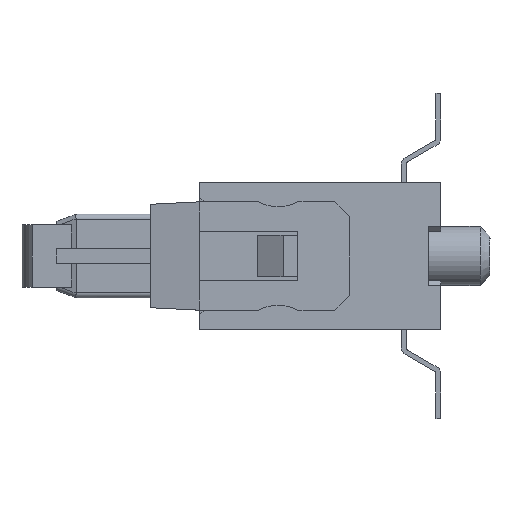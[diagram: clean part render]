
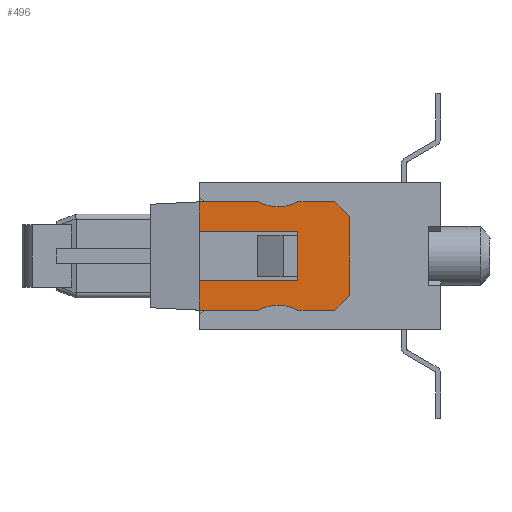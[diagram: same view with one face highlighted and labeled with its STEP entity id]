
A CAD part, left-side view. The second image highlights one B-rep face of the part: STEP entity #496.
In plain terms, the highlighted planar face has unit normal (-1, 0, 0).
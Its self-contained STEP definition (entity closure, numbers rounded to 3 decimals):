
#207 = EDGE_CURVE ( 'NONE', #629, #705, #3390, .T. ) ;
#470 = EDGE_CURVE ( 'NONE', #691, #689, #4088, .T. ) ;
#471 = ORIENTED_EDGE ( 'NONE', *, *, #472, .T. ) ;
#472 = EDGE_CURVE ( 'NONE', #691, #473, #4084, .T. ) ;
#473 = VERTEX_POINT ( 'NONE', #3990 ) ;
#474 = ORIENTED_EDGE ( 'NONE', *, *, #700, .T. ) ;
#475 = VERTEX_POINT ( 'NONE', #3989 ) ;
#484 = EDGE_CURVE ( 'NONE', #569, #571, #4163, .T. ) ;
#486 = ORIENTED_EDGE ( 'NONE', *, *, #487, .F. ) ;
#487 = EDGE_CURVE ( 'NONE', #584, #583, #4220, .T. ) ;
#496 = ADVANCED_FACE ( 'NONE', ( #4297 ), #4224, .T. ) ;
#497 = ORIENTED_EDGE ( 'NONE', *, *, #498, .T. ) ;
#498 = EDGE_CURVE ( 'NONE', #584, #499, #4230, .T. ) ;
#499 = VERTEX_POINT ( 'NONE', #4217 ) ;
#500 = ORIENTED_EDGE ( 'NONE', *, *, #676, .F. ) ;
#565 = VERTEX_POINT ( 'NONE', #4492 ) ;
#567 = EDGE_CURVE ( 'NONE', #714, #565, #4493, .T. ) ;
#569 = VERTEX_POINT ( 'NONE', #4381 ) ;
#571 = VERTEX_POINT ( 'NONE', #4469 ) ;
#581 = ORIENTED_EDGE ( 'NONE', *, *, #582, .F. ) ;
#582 = EDGE_CURVE ( 'NONE', #583, #571, #4399, .T. ) ;
#583 = VERTEX_POINT ( 'NONE', #4387 ) ;
#584 = VERTEX_POINT ( 'NONE', #4386 ) ;
#587 = ORIENTED_EDGE ( 'NONE', *, *, #588, .F. ) ;
#588 = EDGE_CURVE ( 'NONE', #569, #703, #4423, .T. ) ;
#589 = ORIENTED_EDGE ( 'NONE', *, *, #484, .T. ) ;
#629 = VERTEX_POINT ( 'NONE', #4514 ) ;
#631 = EDGE_CURVE ( 'NONE', #565, #629, #4513, .T. ) ;
#676 = EDGE_CURVE ( 'NONE', #877, #499, #4672, .T. ) ;
#686 = EDGE_LOOP ( 'NONE', ( #687, #690, #471, #474, #701, #587, #589, #581, #486, #497, #500, #827, #1095, #880, #881 ) ) ;
#687 = ORIENTED_EDGE ( 'NONE', *, *, #688, .T. ) ;
#688 = EDGE_CURVE ( 'NONE', #705, #689, #4609, .T. ) ;
#689 = VERTEX_POINT ( 'NONE', #4605 ) ;
#690 = ORIENTED_EDGE ( 'NONE', *, *, #470, .F. ) ;
#691 = VERTEX_POINT ( 'NONE', #4604 ) ;
#700 = EDGE_CURVE ( 'NONE', #473, #475, #4809, .T. ) ;
#701 = ORIENTED_EDGE ( 'NONE', *, *, #702, .F. ) ;
#702 = EDGE_CURVE ( 'NONE', #703, #475, #4745, .T. ) ;
#703 = VERTEX_POINT ( 'NONE', #4723 ) ;
#705 = VERTEX_POINT ( 'NONE', #4722 ) ;
#714 = VERTEX_POINT ( 'NONE', #4764 ) ;
#827 = ORIENTED_EDGE ( 'NONE', *, *, #893, .T. ) ;
#877 = VERTEX_POINT ( 'NONE', #5117 ) ;
#880 = ORIENTED_EDGE ( 'NONE', *, *, #631, .T. ) ;
#881 = ORIENTED_EDGE ( 'NONE', *, *, #207, .T. ) ;
#893 = EDGE_CURVE ( 'NONE', #877, #714, #5270, .T. ) ;
#1095 = ORIENTED_EDGE ( 'NONE', *, *, #567, .T. ) ;
#3387 = DIRECTION ( 'NONE',  ( 0., 1., 0. ) ) ;
#3388 = VECTOR ( 'NONE', #3387, 1000. ) ;
#3389 = CARTESIAN_POINT ( 'NONE',  ( -4.85, 1.85, -0.5 ) ) ;
#3390 = LINE ( 'NONE', #3389, #3388 ) ;
#3989 = CARTESIAN_POINT ( 'NONE',  ( -4.85, 2.9, -1.1 ) ) ;
#3990 = CARTESIAN_POINT ( 'NONE',  ( -4.85, 3.3, -1. ) ) ;
#3991 = DIRECTION ( 'NONE',  ( 0., 1., 0. ) ) ;
#3992 = DIRECTION ( 'NONE',  ( 1., 0., 0. ) ) ;
#3993 = CARTESIAN_POINT ( 'NONE',  ( -4.85, 3.3, -1.85 ) ) ;
#3994 = AXIS2_PLACEMENT_3D ( 'NONE', #3993, #3992, #3991 ) ;
#4084 = CIRCLE ( 'NONE', #3994, 0.85 ) ;
#4085 = DIRECTION ( 'NONE',  ( 0., 1., 0. ) ) ;
#4086 = VECTOR ( 'NONE', #4085, 1000. ) ;
#4087 = CARTESIAN_POINT ( 'NONE',  ( -4.85, 3.7, -1.1 ) ) ;
#4088 = LINE ( 'NONE', #4087, #4086 ) ;
#4163 = LINE ( 'NONE', #4193, #4192 ) ;
#4164 = DIRECTION ( 'NONE',  ( 1., 0., 0. ) ) ;
#4165 = CARTESIAN_POINT ( 'NONE',  ( -4.85, 3.3, 1.85 ) ) ;
#4166 = AXIS2_PLACEMENT_3D ( 'NONE', #4165, #4164, #4218 ) ;
#4191 = DIRECTION ( 'NONE',  ( 0., 0., 1. ) ) ;
#4192 = VECTOR ( 'NONE', #4191, 1000. ) ;
#4193 = CARTESIAN_POINT ( 'NONE',  ( -4.85, 1.85, -1.1 ) ) ;
#4217 = CARTESIAN_POINT ( 'NONE',  ( -4.85, 3.7, 1.1 ) ) ;
#4218 = DIRECTION ( 'NONE',  ( 0., 1., 0. ) ) ;
#4219 = CARTESIAN_POINT ( 'NONE',  ( -4.85, 2.15, 1.1 ) ) ;
#4220 = LINE ( 'NONE', #4219, #4229 ) ;
#4223 = AXIS2_PLACEMENT_3D ( 'NONE', #4233, #4232, #4231 ) ;
#4224 = PLANE ( 'NONE',  #4223 ) ;
#4228 = DIRECTION ( 'NONE',  ( 0., -1., 0. ) ) ;
#4229 = VECTOR ( 'NONE', #4228, 1000. ) ;
#4230 = CIRCLE ( 'NONE', #4166, 0.85 ) ;
#4231 = DIRECTION ( 'NONE',  ( 0., 1., 0. ) ) ;
#4232 = DIRECTION ( 'NONE',  ( -1., 0., 0. ) ) ;
#4233 = CARTESIAN_POINT ( 'NONE',  ( -4.85, 1.85, -1.1 ) ) ;
#4297 = FACE_OUTER_BOUND ( 'NONE', #686, .T. ) ;
#4381 = CARTESIAN_POINT ( 'NONE',  ( -4.85, 1.85, -0.8 ) ) ;
#4382 = DIRECTION ( 'NONE',  ( 0., -1., 0. ) ) ;
#4383 = VECTOR ( 'NONE', #4382, 1000. ) ;
#4384 = CARTESIAN_POINT ( 'NONE',  ( -4.85, 1.85, 0.5 ) ) ;
#4386 = CARTESIAN_POINT ( 'NONE',  ( -4.85, 2.9, 1.1 ) ) ;
#4387 = CARTESIAN_POINT ( 'NONE',  ( -4.85, 2.15, 1.1 ) ) ;
#4396 = DIRECTION ( 'NONE',  ( 0., -0.707, -0.707 ) ) ;
#4397 = VECTOR ( 'NONE', #4396, 1000. ) ;
#4398 = CARTESIAN_POINT ( 'NONE',  ( -4.85, 2.15, 1.1 ) ) ;
#4399 = LINE ( 'NONE', #4398, #4397 ) ;
#4420 = DIRECTION ( 'NONE',  ( 0., 0.707, -0.707 ) ) ;
#4421 = VECTOR ( 'NONE', #4420, 1000. ) ;
#4422 = CARTESIAN_POINT ( 'NONE',  ( -4.85, 1.85, -0.8 ) ) ;
#4423 = LINE ( 'NONE', #4422, #4421 ) ;
#4469 = CARTESIAN_POINT ( 'NONE',  ( -4.85, 1.85, 0.8 ) ) ;
#4492 = CARTESIAN_POINT ( 'NONE',  ( -4.85, 2.9, 0.5 ) ) ;
#4493 = LINE ( 'NONE', #4384, #4383 ) ;
#4510 = DIRECTION ( 'NONE',  ( 0., 0., -1. ) ) ;
#4511 = VECTOR ( 'NONE', #4510, 1000. ) ;
#4512 = CARTESIAN_POINT ( 'NONE',  ( -4.85, 2.9, -1.1 ) ) ;
#4513 = LINE ( 'NONE', #4512, #4511 ) ;
#4514 = CARTESIAN_POINT ( 'NONE',  ( -4.85, 2.9, -0.5 ) ) ;
#4584 = VECTOR ( 'NONE', #4670, 1000. ) ;
#4604 = CARTESIAN_POINT ( 'NONE',  ( -4.85, 3.7, -1.1 ) ) ;
#4605 = CARTESIAN_POINT ( 'NONE',  ( -4.85, 4.9, -1.1 ) ) ;
#4606 = DIRECTION ( 'NONE',  ( 0., 0., -1. ) ) ;
#4607 = VECTOR ( 'NONE', #4606, 1000. ) ;
#4608 = CARTESIAN_POINT ( 'NONE',  ( -4.85, 4.9, -1.1 ) ) ;
#4609 = LINE ( 'NONE', #4608, #4607 ) ;
#4670 = DIRECTION ( 'NONE',  ( 0., -1., 0. ) ) ;
#4671 = CARTESIAN_POINT ( 'NONE',  ( -4.85, 3.7, 1.1 ) ) ;
#4672 = LINE ( 'NONE', #4671, #4584 ) ;
#4680 = DIRECTION ( 'NONE',  ( 0., 1., 0. ) ) ;
#4681 = CARTESIAN_POINT ( 'NONE',  ( -4.85, 3.3, -1.85 ) ) ;
#4702 = AXIS2_PLACEMENT_3D ( 'NONE', #4681, #4778, #4680 ) ;
#4722 = CARTESIAN_POINT ( 'NONE',  ( -4.85, 4.9, -0.5 ) ) ;
#4723 = CARTESIAN_POINT ( 'NONE',  ( -4.85, 2.15, -1.1 ) ) ;
#4743 = DIRECTION ( 'NONE',  ( 0., 1., 0. ) ) ;
#4744 = CARTESIAN_POINT ( 'NONE',  ( -4.85, 2.15, -1.1 ) ) ;
#4745 = LINE ( 'NONE', #4744, #4816 ) ;
#4764 = CARTESIAN_POINT ( 'NONE',  ( -4.85, 4.9, 0.5 ) ) ;
#4778 = DIRECTION ( 'NONE',  ( 1., 0., 0. ) ) ;
#4809 = CIRCLE ( 'NONE', #4702, 0.85 ) ;
#4816 = VECTOR ( 'NONE', #4743, 1000. ) ;
#5117 = CARTESIAN_POINT ( 'NONE',  ( -4.85, 4.9, 1.1 ) ) ;
#5237 = DIRECTION ( 'NONE',  ( 0., 0., -1. ) ) ;
#5238 = VECTOR ( 'NONE', #5237, 1000. ) ;
#5269 = CARTESIAN_POINT ( 'NONE',  ( -4.85, 4.9, -1.1 ) ) ;
#5270 = LINE ( 'NONE', #5269, #5238 ) ;
